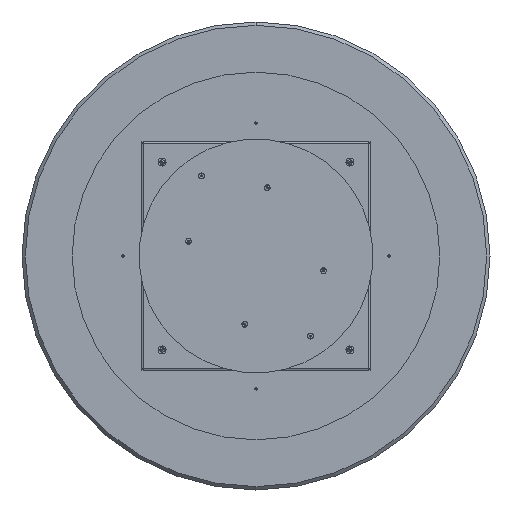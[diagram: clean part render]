
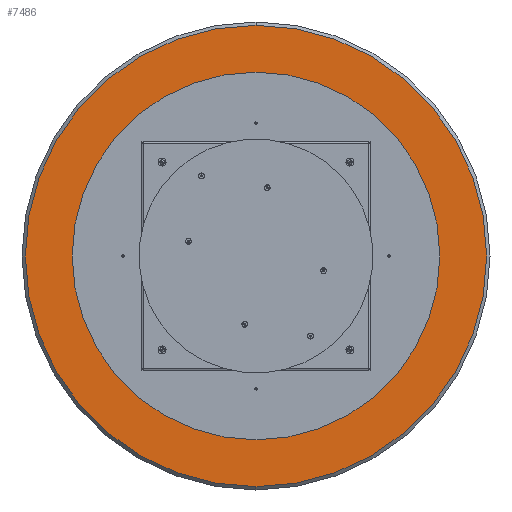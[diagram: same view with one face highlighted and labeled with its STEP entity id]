
A CAD part, front view. The second image highlights one B-rep face of the part: STEP entity #7486.
In plain terms, the highlighted planar face has unit normal (0, -1, 0).
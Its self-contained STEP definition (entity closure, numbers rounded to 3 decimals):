
#424 = CARTESIAN_POINT ( 'NONE',  ( 0., 0., 0. ) ) ;
#1327 = EDGE_CURVE ( 'NONE', #10972, #6228, #10136, .T. ) ;
#1598 = EDGE_CURVE ( 'NONE', #12666, #8113, #7841, .T. ) ;
#1885 = EDGE_LOOP ( 'NONE', ( #2703, #8016 ) ) ;
#2155 = FACE_OUTER_BOUND ( 'NONE', #24067, .T. ) ;
#2521 = CARTESIAN_POINT ( 'NONE',  ( 0., 0., 3.3 ) ) ;
#2582 = DIRECTION ( 'NONE',  ( 0., -1., 0. ) ) ;
#2703 = ORIENTED_EDGE ( 'NONE', *, *, #1327, .F. ) ;
#2713 = CARTESIAN_POINT ( 'NONE',  ( 0., 0., 0. ) ) ;
#4918 = AXIS2_PLACEMENT_3D ( 'NONE', #7987, #15357, #8094 ) ;
#4991 = DIRECTION ( 'NONE',  ( 0., 0., -1. ) ) ;
#6228 = VERTEX_POINT ( 'NONE', #2521 ) ;
#7486 = ADVANCED_FACE ( 'NONE', ( #11782, #2155 ), #10061, .T. ) ;
#7528 = CARTESIAN_POINT ( 'NONE',  ( 0., 0., 0. ) ) ;
#7830 = DIRECTION ( 'NONE',  ( 0., -1., 0. ) ) ;
#7841 = CIRCLE ( 'NONE', #9809, 690. ) ;
#7987 = CARTESIAN_POINT ( 'NONE',  ( 0., 0., 0. ) ) ;
#8016 = ORIENTED_EDGE ( 'NONE', *, *, #15689, .F. ) ;
#8094 = DIRECTION ( 'NONE',  ( 0., 0., -1. ) ) ;
#8113 = VERTEX_POINT ( 'NONE', #8800 ) ;
#8658 = EDGE_CURVE ( 'NONE', #8113, #12666, #9293, .T. ) ;
#8800 = CARTESIAN_POINT ( 'NONE',  ( 0., 0., 690. ) ) ;
#9293 = CIRCLE ( 'NONE', #12430, 690. ) ;
#9809 = AXIS2_PLACEMENT_3D ( 'NONE', #7528, #15033, #11698 ) ;
#9878 = DIRECTION ( 'NONE',  ( 0., 0., -1. ) ) ;
#9921 = DIRECTION ( 'NONE',  ( 0., 0., -1. ) ) ;
#10061 = PLANE ( 'NONE',  #4918 ) ;
#10136 = CIRCLE ( 'NONE', #19930, 3.3 ) ;
#10268 = AXIS2_PLACEMENT_3D ( 'NONE', #18528, #12506, #4991 ) ;
#10972 = VERTEX_POINT ( 'NONE', #14122 ) ;
#11698 = DIRECTION ( 'NONE',  ( 0., 0., -1. ) ) ;
#11782 = FACE_BOUND ( 'NONE', #1885, .T. ) ;
#12430 = AXIS2_PLACEMENT_3D ( 'NONE', #2713, #2582, #9878 ) ;
#12506 = DIRECTION ( 'NONE',  ( 0., -1., 0. ) ) ;
#12666 = VERTEX_POINT ( 'NONE', #21589 ) ;
#14122 = CARTESIAN_POINT ( 'NONE',  ( 0., 0., -3.3 ) ) ;
#14966 = CIRCLE ( 'NONE', #10268, 3.3 ) ;
#15033 = DIRECTION ( 'NONE',  ( 0., -1., 0. ) ) ;
#15357 = DIRECTION ( 'NONE',  ( 0., -1., 0. ) ) ;
#15689 = EDGE_CURVE ( 'NONE', #6228, #10972, #14966, .T. ) ;
#18528 = CARTESIAN_POINT ( 'NONE',  ( 0., 0., 0. ) ) ;
#19930 = AXIS2_PLACEMENT_3D ( 'NONE', #424, #7830, #9921 ) ;
#21589 = CARTESIAN_POINT ( 'NONE',  ( 0., 0., -690. ) ) ;
#21843 = ORIENTED_EDGE ( 'NONE', *, *, #8658, .T. ) ;
#23654 = ORIENTED_EDGE ( 'NONE', *, *, #1598, .T. ) ;
#24067 = EDGE_LOOP ( 'NONE', ( #21843, #23654 ) ) ;
